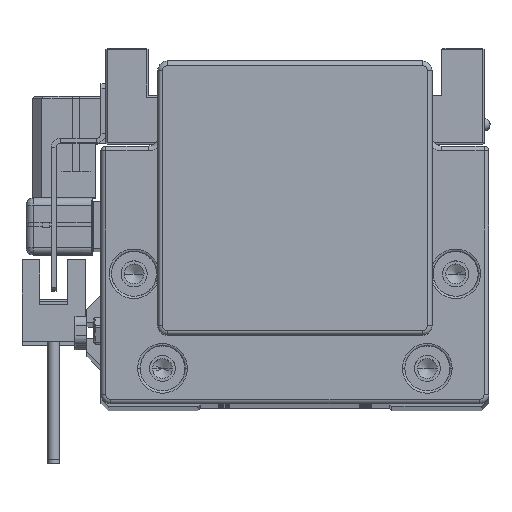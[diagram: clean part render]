
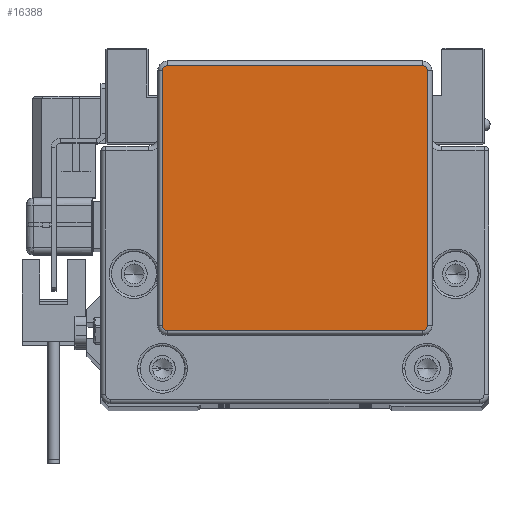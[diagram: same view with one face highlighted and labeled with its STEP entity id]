
A CAD part, top view. The second image highlights one B-rep face of the part: STEP entity #16388.
In plain terms, the highlighted planar face has unit normal (0, 0, 1).
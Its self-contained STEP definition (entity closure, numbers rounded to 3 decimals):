
#801 = AXIS2_PLACEMENT_3D ( 'NONE', #9659, #35468, #9891 ) ;
#1233 = CIRCLE ( 'NONE', #38136, 1. ) ;
#1273 = EDGE_CURVE ( 'NONE', #46799, #47662, #3915, .T. ) ;
#1274 = LINE ( 'NONE', #1518, #24864 ) ;
#1518 = CARTESIAN_POINT ( 'NONE',  ( 27., -20.75, 17. ) ) ;
#1558 = DIRECTION ( 'NONE',  ( 0., 0., 1. ) ) ;
#2155 = DIRECTION ( 'NONE',  ( 0., 1., 0. ) ) ;
#3127 = ORIENTED_EDGE ( 'NONE', *, *, #40549, .T. ) ;
#3915 = CIRCLE ( 'NONE', #31425, 1. ) ;
#3959 = CIRCLE ( 'NONE', #801, 1. ) ;
#4174 = DIRECTION ( 'NONE',  ( 1., 0., 0. ) ) ;
#4722 = DIRECTION ( 'NONE',  ( 1., 0., 0. ) ) ;
#5355 = DIRECTION ( 'NONE',  ( -1., 0., 0. ) ) ;
#5808 = CARTESIAN_POINT ( 'NONE',  ( 28., -19.75, 17. ) ) ;
#7539 = CARTESIAN_POINT ( 'NONE',  ( 27., 35.25, 17. ) ) ;
#7726 = VECTOR ( 'NONE', #8863, 1000. ) ;
#7867 = CARTESIAN_POINT ( 'NONE',  ( -28., 34.25, 17. ) ) ;
#7973 = VECTOR ( 'NONE', #5355, 1000. ) ;
#8863 = DIRECTION ( 'NONE',  ( 0., -1., 0. ) ) ;
#9102 = LINE ( 'NONE', #43081, #7726 ) ;
#9659 = CARTESIAN_POINT ( 'NONE',  ( 27., 34.25, 17. ) ) ;
#9891 = DIRECTION ( 'NONE',  ( 1., 0., 0. ) ) ;
#10365 = ORIENTED_EDGE ( 'NONE', *, *, #42367, .T. ) ;
#10650 = CARTESIAN_POINT ( 'NONE',  ( 27., -20.75, 17. ) ) ;
#12132 = VERTEX_POINT ( 'NONE', #5808 ) ;
#12351 = VERTEX_POINT ( 'NONE', #48370 ) ;
#13378 = VERTEX_POINT ( 'NONE', #7867 ) ;
#13849 = CARTESIAN_POINT ( 'NONE',  ( -27., 34.25, 17. ) ) ;
#15251 = CARTESIAN_POINT ( 'NONE',  ( -27., 35.25, 17. ) ) ;
#16152 = CIRCLE ( 'NONE', #42116, 1. ) ;
#16388 = ADVANCED_FACE ( 'NONE', ( #41145 ), #34440, .T. ) ;
#16522 = AXIS2_PLACEMENT_3D ( 'NONE', #41378, #48524, #26837 ) ;
#16658 = CARTESIAN_POINT ( 'NONE',  ( -27., -20.75, 17. ) ) ;
#17272 = EDGE_CURVE ( 'NONE', #42169, #13378, #1233, .T. ) ;
#19748 = ORIENTED_EDGE ( 'NONE', *, *, #45430, .T. ) ;
#19837 = CARTESIAN_POINT ( 'NONE',  ( -27., -19.75, 17. ) ) ;
#23752 = ORIENTED_EDGE ( 'NONE', *, *, #17272, .T. ) ;
#24059 = VERTEX_POINT ( 'NONE', #7539 ) ;
#24677 = DIRECTION ( 'NONE',  ( 1., 0., 0. ) ) ;
#24864 = VECTOR ( 'NONE', #4722, 1000. ) ;
#25764 = EDGE_CURVE ( 'NONE', #12132, #12351, #31698, .T. ) ;
#26837 = DIRECTION ( 'NONE',  ( 1., 0., 0. ) ) ;
#27237 = DIRECTION ( 'NONE',  ( 0., 0., 1. ) ) ;
#27876 = VERTEX_POINT ( 'NONE', #10650 ) ;
#28489 = CARTESIAN_POINT ( 'NONE',  ( 28., 34.25, 17. ) ) ;
#29275 = EDGE_CURVE ( 'NONE', #24059, #42169, #42064, .T. ) ;
#31425 = AXIS2_PLACEMENT_3D ( 'NONE', #19837, #27237, #42268 ) ;
#31698 = LINE ( 'NONE', #28489, #33775 ) ;
#33775 = VECTOR ( 'NONE', #2155, 1000. ) ;
#34188 = EDGE_LOOP ( 'NONE', ( #42590, #23752, #10365, #37230, #3127, #41210, #43264, #19748 ) ) ;
#34440 = PLANE ( 'NONE',  #16522 ) ;
#35468 = DIRECTION ( 'NONE',  ( 0., 0., 1. ) ) ;
#37230 = ORIENTED_EDGE ( 'NONE', *, *, #1273, .T. ) ;
#38136 = AXIS2_PLACEMENT_3D ( 'NONE', #13849, #1558, #24677 ) ;
#38576 = CARTESIAN_POINT ( 'NONE',  ( -27., 35.25, 17. ) ) ;
#39401 = EDGE_CURVE ( 'NONE', #27876, #12132, #16152, .T. ) ;
#40549 = EDGE_CURVE ( 'NONE', #47662, #27876, #1274, .T. ) ;
#41145 = FACE_OUTER_BOUND ( 'NONE', #34188, .T. ) ;
#41210 = ORIENTED_EDGE ( 'NONE', *, *, #39401, .T. ) ;
#41378 = CARTESIAN_POINT ( 'NONE',  ( -27., -19.75, 17. ) ) ;
#42064 = LINE ( 'NONE', #38576, #7973 ) ;
#42116 = AXIS2_PLACEMENT_3D ( 'NONE', #45062, #44330, #4174 ) ;
#42169 = VERTEX_POINT ( 'NONE', #15251 ) ;
#42268 = DIRECTION ( 'NONE',  ( 1., 0., 0. ) ) ;
#42367 = EDGE_CURVE ( 'NONE', #13378, #46799, #9102, .T. ) ;
#42590 = ORIENTED_EDGE ( 'NONE', *, *, #29275, .T. ) ;
#43081 = CARTESIAN_POINT ( 'NONE',  ( -28., -19.75, 17. ) ) ;
#43264 = ORIENTED_EDGE ( 'NONE', *, *, #25764, .T. ) ;
#43449 = CARTESIAN_POINT ( 'NONE',  ( -28., -19.75, 17. ) ) ;
#44330 = DIRECTION ( 'NONE',  ( 0., 0., 1. ) ) ;
#45062 = CARTESIAN_POINT ( 'NONE',  ( 27., -19.75, 17. ) ) ;
#45430 = EDGE_CURVE ( 'NONE', #12351, #24059, #3959, .T. ) ;
#46799 = VERTEX_POINT ( 'NONE', #43449 ) ;
#47662 = VERTEX_POINT ( 'NONE', #16658 ) ;
#48370 = CARTESIAN_POINT ( 'NONE',  ( 28., 34.25, 17. ) ) ;
#48524 = DIRECTION ( 'NONE',  ( 0., 0., 1. ) ) ;
